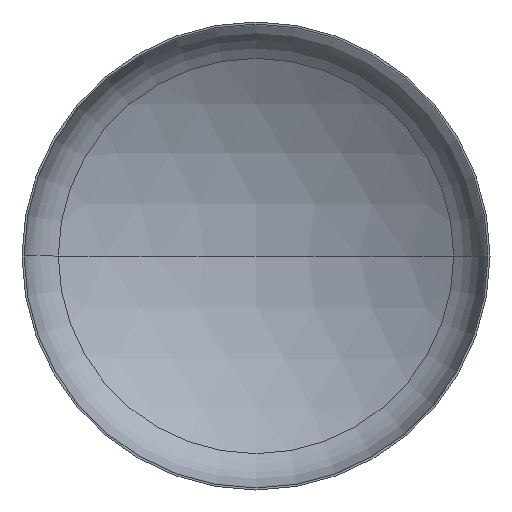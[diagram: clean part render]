
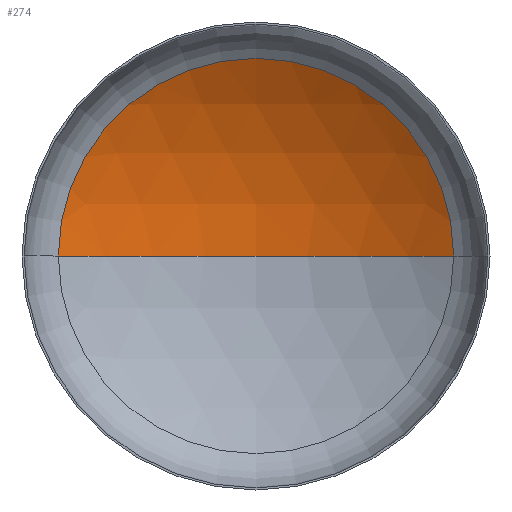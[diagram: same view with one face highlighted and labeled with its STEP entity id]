
A CAD part, front view. The second image highlights one B-rep face of the part: STEP entity #274.
In plain terms, the highlighted spherical face has radius 1600 mm.
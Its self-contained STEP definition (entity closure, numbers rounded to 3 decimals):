
#15 = EDGE_LOOP ( 'NONE', ( #83, #75, #25 ) ) ;
#25 = ORIENTED_EDGE ( 'NONE', *, *, #35, .T. ) ;
#30 = VERTEX_POINT ( 'NONE', #259 ) ;
#35 = EDGE_CURVE ( 'NONE', #91, #43, #298, .T. ) ;
#36 = CIRCLE ( 'NONE', #254, 1600. ) ;
#38 = EDGE_CURVE ( 'NONE', #30, #91, #232, .T. ) ;
#41 = EDGE_CURVE ( 'NONE', #30, #43, #36, .T. ) ;
#43 = VERTEX_POINT ( 'NONE', #334 ) ;
#75 = ORIENTED_EDGE ( 'NONE', *, *, #38, .T. ) ;
#82 = DIRECTION ( 'NONE',  ( -1., 0., 0. ) ) ;
#83 = ORIENTED_EDGE ( 'NONE', *, *, #41, .F. ) ;
#91 = VERTEX_POINT ( 'NONE', #342 ) ;
#161 = DIRECTION ( 'NONE',  ( 0., 0., -1. ) ) ;
#164 = CARTESIAN_POINT ( 'NONE',  ( 0., -1065.6, 0. ) ) ;
#174 = DIRECTION ( 'NONE',  ( 0., 0., 1. ) ) ;
#184 = AXIS2_PLACEMENT_3D ( 'NONE', #164, #161, #82 ) ;
#189 = DIRECTION ( 'NONE',  ( 1., 0., 0. ) ) ;
#226 = AXIS2_PLACEMENT_3D ( 'NONE', #333, #326, #325 ) ;
#232 = CIRCLE ( 'NONE', #241, 1600. ) ;
#241 = AXIS2_PLACEMENT_3D ( 'NONE', #320, #318, #315 ) ;
#254 = AXIS2_PLACEMENT_3D ( 'NONE', #307, #174, #189 ) ;
#259 = CARTESIAN_POINT ( 'NONE',  ( 0., 534.4, 0. ) ) ;
#274 = ADVANCED_FACE ( 'NONE', ( #319 ), #327, .F. ) ;
#298 = CIRCLE ( 'NONE', #226, 844.651 ) ;
#307 = CARTESIAN_POINT ( 'NONE',  ( 0., -1065.6, 0. ) ) ;
#315 = DIRECTION ( 'NONE',  ( -1., 0., 0. ) ) ;
#318 = DIRECTION ( 'NONE',  ( 0., 0., -1. ) ) ;
#319 = FACE_OUTER_BOUND ( 'NONE', #15, .T. ) ;
#320 = CARTESIAN_POINT ( 'NONE',  ( 0., -1065.6, 0. ) ) ;
#325 = DIRECTION ( 'NONE',  ( 1., 0., 0. ) ) ;
#326 = DIRECTION ( 'NONE',  ( 0., -1., 0. ) ) ;
#327 = SPHERICAL_SURFACE ( 'NONE', #184, 1600. ) ;
#333 = CARTESIAN_POINT ( 'NONE',  ( 0., 293.284, 0. ) ) ;
#334 = CARTESIAN_POINT ( 'NONE',  ( -844.651, 293.284, 0. ) ) ;
#342 = CARTESIAN_POINT ( 'NONE',  ( 844.651, 293.284, 0. ) ) ;
